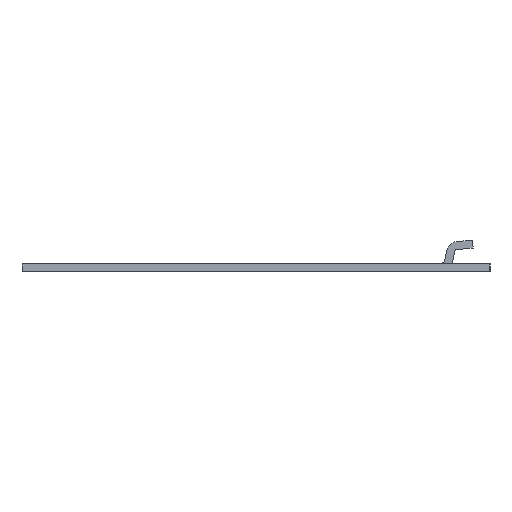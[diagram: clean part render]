
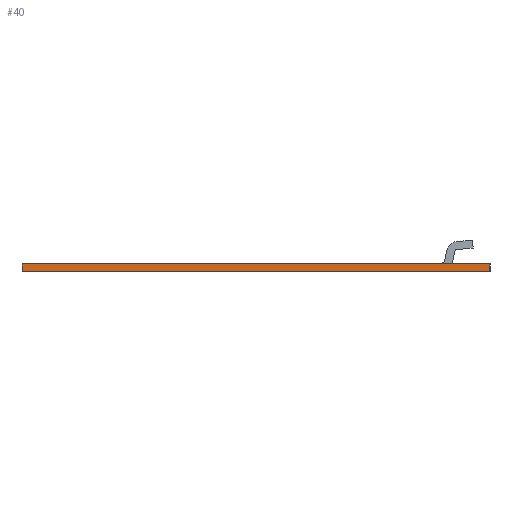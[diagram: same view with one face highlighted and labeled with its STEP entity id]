
A CAD part, front view. The second image highlights one B-rep face of the part: STEP entity #40.
In plain terms, the highlighted planar face has unit normal (0, -1, 0).
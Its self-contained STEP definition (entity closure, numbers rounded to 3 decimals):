
#8 = CARTESIAN_POINT ( 'NONE',  ( 44., -180., 0. ) ) ;
#40 = ADVANCED_FACE ( 'NONE', ( #1137 ), #820, .F. ) ;
#62 = ORIENTED_EDGE ( 'NONE', *, *, #1159, .T. ) ;
#224 = DIRECTION ( 'NONE',  ( 0., 0., -1. ) ) ;
#353 = VECTOR ( 'NONE', #1960, 1000. ) ;
#549 = LINE ( 'NONE', #2120, #1787 ) ;
#603 = EDGE_CURVE ( 'NONE', #2060, #1260, #1983, .T. ) ;
#698 = ORIENTED_EDGE ( 'NONE', *, *, #2436, .F. ) ;
#712 = CARTESIAN_POINT ( 'NONE',  ( -44., -180., 1.5 ) ) ;
#764 = VERTEX_POINT ( 'NONE', #8 ) ;
#820 = PLANE ( 'NONE',  #2455 ) ;
#888 = VECTOR ( 'NONE', #2629, 1000. ) ;
#916 = CARTESIAN_POINT ( 'NONE',  ( -44., -180., 0. ) ) ;
#956 = VERTEX_POINT ( 'NONE', #1024 ) ;
#966 = EDGE_LOOP ( 'NONE', ( #62, #698, #1800, #2356 ) ) ;
#971 = LINE ( 'NONE', #712, #353 ) ;
#1024 = CARTESIAN_POINT ( 'NONE',  ( 44., -180., 1.5 ) ) ;
#1032 = CARTESIAN_POINT ( 'NONE',  ( -44., -180., 1.5 ) ) ;
#1075 = DIRECTION ( 'NONE',  ( 0., 0., 1. ) ) ;
#1083 = LINE ( 'NONE', #2513, #1500 ) ;
#1137 = FACE_OUTER_BOUND ( 'NONE', #966, .T. ) ;
#1159 = EDGE_CURVE ( 'NONE', #1260, #764, #549, .T. ) ;
#1260 = VERTEX_POINT ( 'NONE', #916 ) ;
#1400 = CARTESIAN_POINT ( 'NONE',  ( -44., -180., 1.5 ) ) ;
#1413 = CARTESIAN_POINT ( 'NONE',  ( -44., -180., 1.5 ) ) ;
#1500 = VECTOR ( 'NONE', #224, 1000. ) ;
#1787 = VECTOR ( 'NONE', #2333, 1000. ) ;
#1800 = ORIENTED_EDGE ( 'NONE', *, *, #2665, .F. ) ;
#1960 = DIRECTION ( 'NONE',  ( 1., 0., 0. ) ) ;
#1983 = LINE ( 'NONE', #1400, #888 ) ;
#2060 = VERTEX_POINT ( 'NONE', #1413 ) ;
#2120 = CARTESIAN_POINT ( 'NONE',  ( -44., -180., 0. ) ) ;
#2333 = DIRECTION ( 'NONE',  ( 1., 0., 0. ) ) ;
#2356 = ORIENTED_EDGE ( 'NONE', *, *, #603, .T. ) ;
#2430 = DIRECTION ( 'NONE',  ( 0., 1., 0. ) ) ;
#2436 = EDGE_CURVE ( 'NONE', #956, #764, #1083, .T. ) ;
#2455 = AXIS2_PLACEMENT_3D ( 'NONE', #1032, #2430, #1075 ) ;
#2513 = CARTESIAN_POINT ( 'NONE',  ( 44., -180., 1.5 ) ) ;
#2629 = DIRECTION ( 'NONE',  ( 0., 0., -1. ) ) ;
#2665 = EDGE_CURVE ( 'NONE', #2060, #956, #971, .T. ) ;
